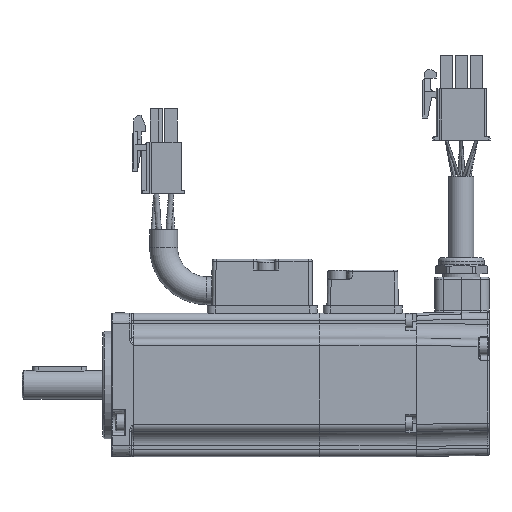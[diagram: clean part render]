
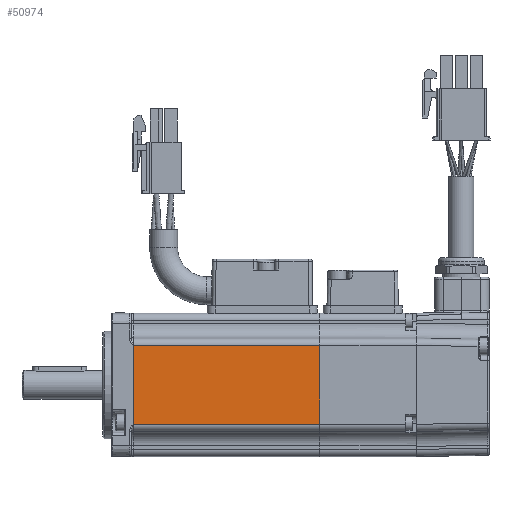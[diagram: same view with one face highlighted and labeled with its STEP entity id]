
A CAD part, left-side view. The second image highlights one B-rep face of the part: STEP entity #50974.
In plain terms, the highlighted planar face has unit normal (-1, 0, 0) as drawn and (0, 1, 0) by its records, which use the part's own axes.
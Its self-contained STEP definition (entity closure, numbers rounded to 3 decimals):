
#9905=LINE('',#78038,#14088);
#9906=LINE('',#78041,#14089);
#9907=LINE('',#78043,#14090);
#9908=LINE('',#78045,#14091);
#14088=VECTOR('',#61322,1000.);
#14089=VECTOR('',#61323,1000.);
#14090=VECTOR('',#61324,1000.);
#14091=VECTOR('',#61325,1000.);
#18061=PLANE('',#54326);
#24176=ORIENTED_EDGE('',*,*,#33971,.T.);
#24177=ORIENTED_EDGE('',*,*,#33972,.T.);
#24178=ORIENTED_EDGE('',*,*,#33973,.T.);
#24179=ORIENTED_EDGE('',*,*,#33974,.T.);
#33971=EDGE_CURVE('',#39309,#39310,#9905,.F.);
#33972=EDGE_CURVE('',#39310,#39311,#9906,.T.);
#33973=EDGE_CURVE('',#39311,#39312,#9907,.T.);
#33974=EDGE_CURVE('',#39312,#39309,#9908,.T.);
#39309=VERTEX_POINT('',#78039);
#39310=VERTEX_POINT('',#78040);
#39311=VERTEX_POINT('',#78042);
#39312=VERTEX_POINT('',#78044);
#44217=EDGE_LOOP('',(#24176,#24177,#24178,#24179));
#47500=FACE_BOUND('',#44217,.T.);
#50974=ADVANCED_FACE('',(#47500),#18061,.T.);
#54326=AXIS2_PLACEMENT_3D('',#78037,#61320,#61321);
#61320=DIRECTION('',(0.,1.,0.));
#61321=DIRECTION('',(0.,0.,1.));
#61322=DIRECTION('',(-1.,0.,0.));
#61323=DIRECTION('',(0.,0.,-1.));
#61324=DIRECTION('',(-1.,0.,0.));
#61325=DIRECTION('',(0.,0.,1.));
#78037=CARTESIAN_POINT('',(-200.,20.,-20.));
#78038=CARTESIAN_POINT('',(0.,20.,11.));
#78039=CARTESIAN_POINT('',(-53.,20.,11.));
#78040=CARTESIAN_POINT('',(-1.,20.,11.));
#78041=CARTESIAN_POINT('',(-1.,20.,-20.));
#78042=CARTESIAN_POINT('',(-1.,20.,-11.));
#78043=CARTESIAN_POINT('',(-200.,20.,-11.));
#78044=CARTESIAN_POINT('',(-53.,20.,-11.));
#78045=CARTESIAN_POINT('',(-53.,20.,-20.));
